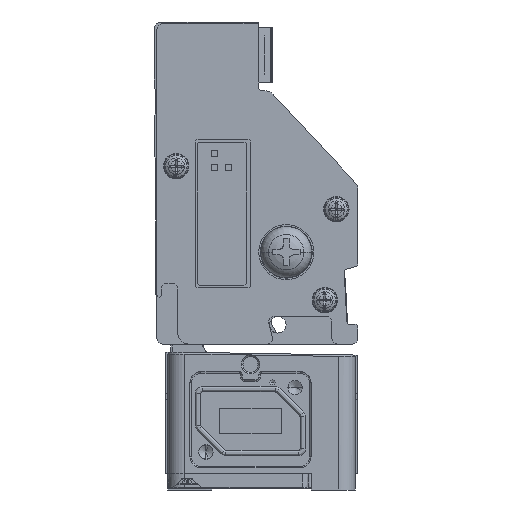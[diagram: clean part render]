
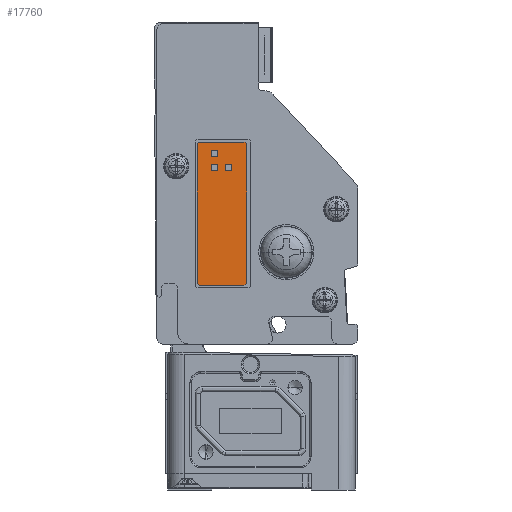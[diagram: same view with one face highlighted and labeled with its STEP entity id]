
A CAD part, front view. The second image highlights one B-rep face of the part: STEP entity #17760.
In plain terms, the highlighted planar face has unit normal (0, -1, 0).
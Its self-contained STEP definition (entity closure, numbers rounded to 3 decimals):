
#15990=CARTESIAN_POINT('',(9.8,-2339.8,
50.2));
#16000=DIRECTION('',(0.,-1.,0.));
#16010=DIRECTION('',(1.,0.,0.));
#16020=AXIS2_PLACEMENT_3D('',#15990,#16000,#16010);
#16030=PLANE('',#16020);
#16040=CARTESIAN_POINT('',(5.8,-2339.8,
62.7));
#16050=DIRECTION('',(0.,-1.,0.));
#16060=DIRECTION('',(0.,0.,1.));
#16070=AXIS2_PLACEMENT_3D('',#16040,#16050,#16060);
#16080=CIRCLE('',#16070,0.5);
#16090=CARTESIAN_POINT('',(5.8,-2339.8,
63.2));
#16100=VERTEX_POINT('',#16090);
#16110=CARTESIAN_POINT('',(5.3,-2339.8,
62.7));
#16120=VERTEX_POINT('',#16110);
#16130=EDGE_CURVE('',#16100,#16120,#16080,.T.);
#16140=ORIENTED_EDGE('',*,*,#16130,.T.);
#16150=CARTESIAN_POINT('',(5.8,-2339.8,
63.2));
#16160=DIRECTION('',(1.,0.,0.));
#16170=VECTOR('',#16160,1.);
#16180=LINE('',#16150,#16170);
#16190=CARTESIAN_POINT('',(13.8,-2339.8,
63.2));
#16200=VERTEX_POINT('',#16190);
#16210=EDGE_CURVE('',#16100,#16200,#16180,.T.);
#16220=ORIENTED_EDGE('',*,*,#16210,.F.);
#16230=CARTESIAN_POINT('',(13.8,-2339.8,
62.7));
#16240=DIRECTION('',(0.,-1.,0.));
#16250=DIRECTION('',(0.,0.,1.));
#16260=AXIS2_PLACEMENT_3D('',#16230,#16240,#16250);
#16270=CIRCLE('',#16260,0.5);
#16280=CARTESIAN_POINT('',(14.3,-2339.8,
62.7));
#16290=VERTEX_POINT('',#16280);
#16300=EDGE_CURVE('',#16290,#16200,#16270,.T.);
#16310=ORIENTED_EDGE('',*,*,#16300,.T.);
#16320=CARTESIAN_POINT('',(14.3,-2339.8,
62.7));
#16330=DIRECTION('',(0.,0.,-1.));
#16340=VECTOR('',#16330,1.);
#16350=LINE('',#16320,#16340);
#16360=CARTESIAN_POINT('',(14.3,-2339.8,
37.7));
#16370=VERTEX_POINT('',#16360);
#16380=EDGE_CURVE('',#16290,#16370,#16350,.T.);
#16390=ORIENTED_EDGE('',*,*,#16380,.F.);
#16400=CARTESIAN_POINT('',(13.8,-2339.8,
37.7));
#16410=DIRECTION('',(0.,-1.,0.));
#16420=DIRECTION('',(0.,0.,1.));
#16430=AXIS2_PLACEMENT_3D('',#16400,#16410,#16420);
#16440=CIRCLE('',#16430,0.5);
#16450=CARTESIAN_POINT('',(13.8,-2339.8,
37.2));
#16460=VERTEX_POINT('',#16450);
#16470=EDGE_CURVE('',#16460,#16370,#16440,.T.);
#16480=ORIENTED_EDGE('',*,*,#16470,.T.);
#16490=CARTESIAN_POINT('',(13.8,-2339.8,
37.2));
#16500=DIRECTION('',(-1.,0.,0.));
#16510=VECTOR('',#16500,1.);
#16520=LINE('',#16490,#16510);
#16530=CARTESIAN_POINT('',(5.8,-2339.8,
37.2));
#16540=VERTEX_POINT('',#16530);
#16550=EDGE_CURVE('',#16460,#16540,#16520,.T.);
#16560=ORIENTED_EDGE('',*,*,#16550,.F.);
#16570=CARTESIAN_POINT('',(5.8,-2339.8,
37.7));
#16580=DIRECTION('',(0.,-1.,0.));
#16590=DIRECTION('',(0.,0.,1.));
#16600=AXIS2_PLACEMENT_3D('',#16570,#16580,#16590);
#16610=CIRCLE('',#16600,0.5);
#16620=CARTESIAN_POINT('',(5.3,-2339.8,
37.7));
#16630=VERTEX_POINT('',#16620);
#16640=EDGE_CURVE('',#16630,#16540,#16610,.T.);
#16650=ORIENTED_EDGE('',*,*,#16640,.T.);
#16660=CARTESIAN_POINT('',(5.3,-2339.8,
37.7));
#16670=DIRECTION('',(0.,0.,1.));
#16680=VECTOR('',#16670,1.);
#16690=LINE('',#16660,#16680);
#16700=EDGE_CURVE('',#16630,#16120,#16690,.T.);
#16710=ORIENTED_EDGE('',*,*,#16700,.F.);
#16720=EDGE_LOOP('',(#16710,#16650,#16560,#16480,#16390,#16310,#16220,
#16140));
#16730=FACE_OUTER_BOUND('',#16720,.T.);
#16740=CARTESIAN_POINT('',(9.8,-2339.8,
58.089));
#16750=DIRECTION('',(-1.,0.,0.));
#16760=VECTOR('',#16750,1.);
#16770=LINE('',#16740,#16760);
#16780=CARTESIAN_POINT('',(11.605,-2339.8,
58.089));
#16790=VERTEX_POINT('',#16780);
#16800=CARTESIAN_POINT('',(10.506,-2339.8,
58.089));
#16810=VERTEX_POINT('',#16800);
#16820=EDGE_CURVE('',#16790,#16810,#16770,.T.);
#16830=ORIENTED_EDGE('',*,*,#16820,.T.);
#16840=CARTESIAN_POINT('',(11.605,-2339.8,
50.2));
#16850=DIRECTION('',(0.,0.,-1.));
#16860=VECTOR('',#16850,1.);
#16870=LINE('',#16840,#16860);
#16880=CARTESIAN_POINT('',(11.605,-2339.8,
59.188));
#16890=VERTEX_POINT('',#16880);
#16900=EDGE_CURVE('',#16890,#16790,#16870,.T.);
#16910=ORIENTED_EDGE('',*,*,#16900,.T.);
#16920=CARTESIAN_POINT('',(9.8,-2339.8,
59.188));
#16930=DIRECTION('',(1.,0.,0.));
#16940=VECTOR('',#16930,1.);
#16950=LINE('',#16920,#16940);
#16960=CARTESIAN_POINT('',(10.506,-2339.8,
59.188));
#16970=VERTEX_POINT('',#16960);
#16980=EDGE_CURVE('',#16970,#16890,#16950,.T.);
#16990=ORIENTED_EDGE('',*,*,#16980,.T.);
#17000=CARTESIAN_POINT('',(10.506,-2339.8,
50.2));
#17010=DIRECTION('',(0.,0.,1.));
#17020=VECTOR('',#17010,1.);
#17030=LINE('',#17000,#17020);
#17040=EDGE_CURVE('',#16810,#16970,#17030,.T.);
#17050=ORIENTED_EDGE('',*,*,#17040,.T.);
#17060=EDGE_LOOP('',(#17050,#16990,#16910,#16830));
#17070=FACE_BOUND('',#17060,.T.);
#17080=CARTESIAN_POINT('',(9.094,-2339.8,
50.2));
#17090=DIRECTION('',(0.,0.,-1.));
#17100=VECTOR('',#17090,1.);
#17110=LINE('',#17080,#17100);
#17120=CARTESIAN_POINT('',(9.094,-2339.8,
59.188));
#17130=VERTEX_POINT('',#17120);
#17140=CARTESIAN_POINT('',(9.094,-2339.8,
58.089));
#17150=VERTEX_POINT('',#17140);
#17160=EDGE_CURVE('',#17130,#17150,#17110,.T.);
#17170=ORIENTED_EDGE('',*,*,#17160,.T.);
#17180=CARTESIAN_POINT('',(9.8,-2339.8,
59.188));
#17190=DIRECTION('',(1.,0.,0.));
#17200=VECTOR('',#17190,1.);
#17210=LINE('',#17180,#17200);
#17220=CARTESIAN_POINT('',(7.995,-2339.8,
59.188));
#17230=VERTEX_POINT('',#17220);
#17240=EDGE_CURVE('',#17230,#17130,#17210,.T.);
#17250=ORIENTED_EDGE('',*,*,#17240,.T.);
#17260=CARTESIAN_POINT('',(7.995,-2339.8,
50.2));
#17270=DIRECTION('',(0.,0.,1.));
#17280=VECTOR('',#17270,1.);
#17290=LINE('',#17260,#17280);
#17300=CARTESIAN_POINT('',(7.995,-2339.8,
58.089));
#17310=VERTEX_POINT('',#17300);
#17320=EDGE_CURVE('',#17310,#17230,#17290,.T.);
#17330=ORIENTED_EDGE('',*,*,#17320,.T.);
#17340=CARTESIAN_POINT('',(9.8,-2339.8,
58.089));
#17350=DIRECTION('',(-1.,0.,0.));
#17360=VECTOR('',#17350,1.);
#17370=LINE('',#17340,#17360);
#17380=EDGE_CURVE('',#17150,#17310,#17370,.T.);
#17390=ORIENTED_EDGE('',*,*,#17380,.T.);
#17400=EDGE_LOOP('',(#17390,#17330,#17250,#17170));
#17410=FACE_BOUND('',#17400,.T.);
#17420=CARTESIAN_POINT('',(9.8,-2339.8,
61.7));
#17430=DIRECTION('',(1.,0.,0.));
#17440=VECTOR('',#17430,1.);
#17450=LINE('',#17420,#17440);
#17460=CARTESIAN_POINT('',(7.995,-2339.8,
61.7));
#17470=VERTEX_POINT('',#17460);
#17480=CARTESIAN_POINT('',(9.094,-2339.8,
61.7));
#17490=VERTEX_POINT('',#17480);
#17500=EDGE_CURVE('',#17470,#17490,#17450,.T.);
#17510=ORIENTED_EDGE('',*,*,#17500,.T.);
#17520=CARTESIAN_POINT('',(7.995,-2339.8,
50.2));
#17530=DIRECTION('',(0.,0.,1.));
#17540=VECTOR('',#17530,1.);
#17550=LINE('',#17520,#17540);
#17560=CARTESIAN_POINT('',(7.995,-2339.8,
60.601));
#17570=VERTEX_POINT('',#17560);
#17580=EDGE_CURVE('',#17570,#17470,#17550,.T.);
#17590=ORIENTED_EDGE('',*,*,#17580,.T.);
#17600=CARTESIAN_POINT('',(9.8,-2339.8,
60.601));
#17610=DIRECTION('',(-1.,0.,0.));
#17620=VECTOR('',#17610,1.);
#17630=LINE('',#17600,#17620);
#17640=CARTESIAN_POINT('',(9.094,-2339.8,
60.601));
#17650=VERTEX_POINT('',#17640);
#17660=EDGE_CURVE('',#17650,#17570,#17630,.T.);
#17670=ORIENTED_EDGE('',*,*,#17660,.T.);
#17680=CARTESIAN_POINT('',(9.094,-2339.8,
50.2));
#17690=DIRECTION('',(0.,0.,-1.));
#17700=VECTOR('',#17690,1.);
#17710=LINE('',#17680,#17700);
#17720=EDGE_CURVE('',#17490,#17650,#17710,.T.);
#17730=ORIENTED_EDGE('',*,*,#17720,.T.);
#17740=EDGE_LOOP('',(#17730,#17670,#17590,#17510));
#17750=FACE_BOUND('',#17740,.T.);
#17760=ADVANCED_FACE('',(#16730,#17070,#17410,#17750),#16030,.T.);
